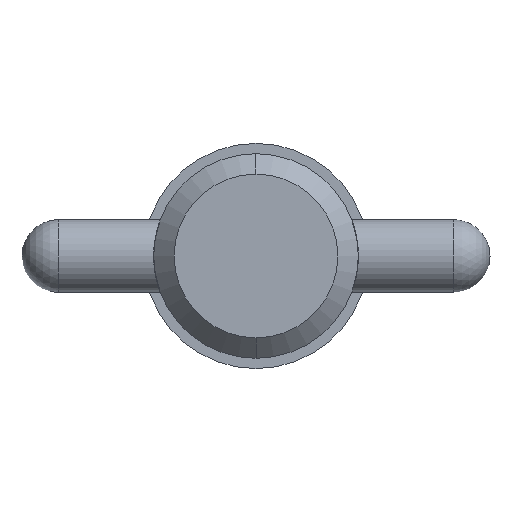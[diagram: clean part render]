
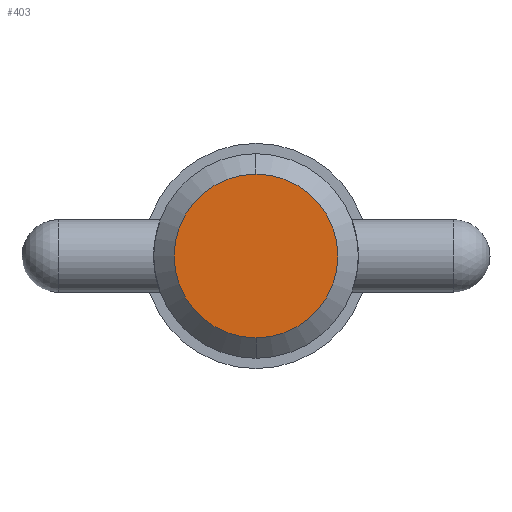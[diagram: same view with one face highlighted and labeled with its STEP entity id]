
A CAD part, left-side view. The second image highlights one B-rep face of the part: STEP entity #403.
In plain terms, the highlighted planar face has unit normal (-1, 0, 0).
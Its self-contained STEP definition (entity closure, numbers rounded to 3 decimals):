
#56 = VERTEX_POINT ( 'NONE', #561 ) ;
#108 = CARTESIAN_POINT ( 'NONE',  ( 0., 0., 0. ) ) ;
#132 = ORIENTED_EDGE ( 'NONE', *, *, #954, .F. ) ;
#222 = AXIS2_PLACEMENT_3D ( 'NONE', #712, #626, #778 ) ;
#265 = EDGE_CURVE ( 'NONE', #1020, #56, #1000, .T. ) ;
#278 = AXIS2_PLACEMENT_3D ( 'NONE', #903, #890, #652 ) ;
#338 = CARTESIAN_POINT ( 'NONE',  ( 0., 0., -4.444 ) ) ;
#357 = AXIS2_PLACEMENT_3D ( 'NONE', #108, #670, #494 ) ;
#403 = ADVANCED_FACE ( 'NONE', ( #835 ), #898, .T. ) ;
#494 = DIRECTION ( 'NONE',  ( 0., 0., 1. ) ) ;
#561 = CARTESIAN_POINT ( 'NONE',  ( 0., 0., 4.444 ) ) ;
#607 = EDGE_LOOP ( 'NONE', ( #750, #132 ) ) ;
#626 = DIRECTION ( 'NONE',  ( 1., 0., 0. ) ) ;
#652 = DIRECTION ( 'NONE',  ( 0., 0., -1. ) ) ;
#664 = CIRCLE ( 'NONE', #278, 4.444 ) ;
#670 = DIRECTION ( 'NONE',  ( -1., 0., 0. ) ) ;
#712 = CARTESIAN_POINT ( 'NONE',  ( 0., 0., 0. ) ) ;
#750 = ORIENTED_EDGE ( 'NONE', *, *, #265, .F. ) ;
#778 = DIRECTION ( 'NONE',  ( 0., 0., -1. ) ) ;
#835 = FACE_OUTER_BOUND ( 'NONE', #607, .T. ) ;
#890 = DIRECTION ( 'NONE',  ( 1., 0., 0. ) ) ;
#898 = PLANE ( 'NONE',  #357 ) ;
#903 = CARTESIAN_POINT ( 'NONE',  ( 0., 0., 0. ) ) ;
#954 = EDGE_CURVE ( 'NONE', #56, #1020, #664, .T. ) ;
#1000 = CIRCLE ( 'NONE', #222, 4.444 ) ;
#1020 = VERTEX_POINT ( 'NONE', #338 ) ;
